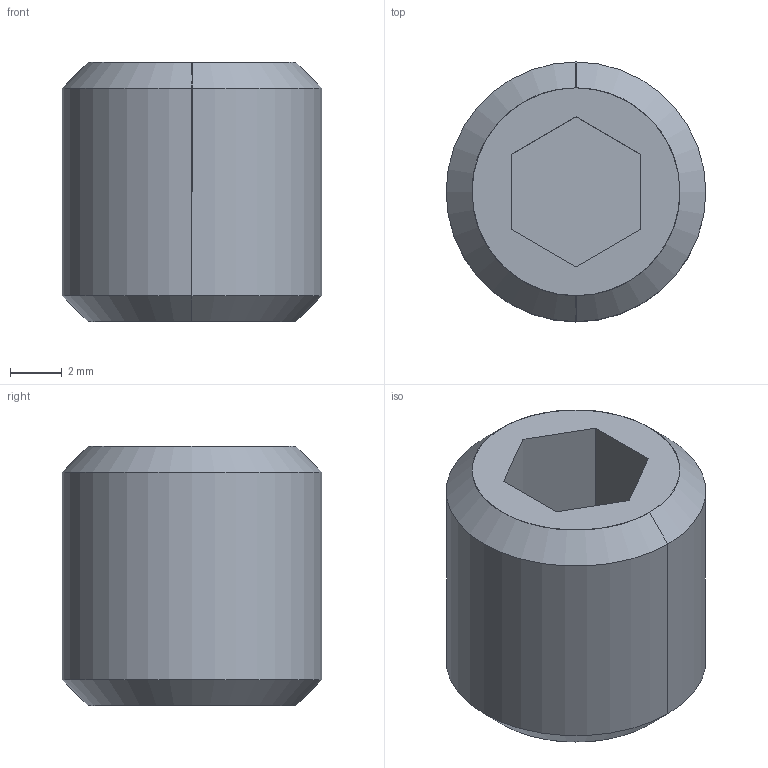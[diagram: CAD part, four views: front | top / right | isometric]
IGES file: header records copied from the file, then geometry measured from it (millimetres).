
Global section: file name: E:\UnigraphicsGraphicData\MISUMI_PRESS-PARTS\IGES\3d_msw10_00511_r00.igs; native system: NX V5.0; preprocessor: UGS NX IGES V5.0; author: MISUMI; date: 20110105.161522; units: millimetre
Bounding box: 10 x 10 x 10 mm (x, y, z)
Surface area: 536.1 mm2 (no closed solid volume)
Topology: 0 solids, 0 shells, 15 faces, 76 edges, 76 vertices
Faces by surface type: bspline 15
